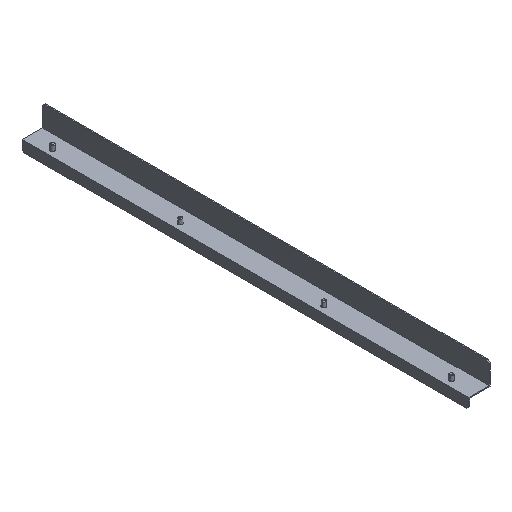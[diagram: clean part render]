
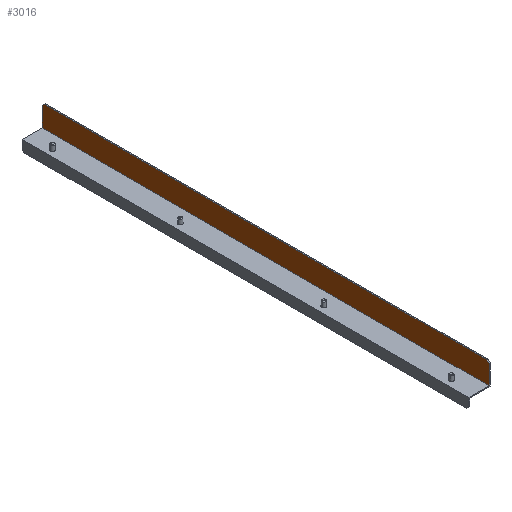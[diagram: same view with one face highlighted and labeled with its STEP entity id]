
A CAD part, isometric view. The second image highlights one B-rep face of the part: STEP entity #3016.
In plain terms, the highlighted planar face has unit normal (-1, 0, 0).
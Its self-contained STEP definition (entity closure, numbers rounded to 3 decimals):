
#5 = ORIENTED_EDGE ( 'NONE', *, *, #1099, .T. ) ;
#35 = DIRECTION ( 'NONE',  ( 0., -0.707, -0.707 ) ) ;
#140 = VERTEX_POINT ( 'NONE', #3388 ) ;
#183 = EDGE_CURVE ( 'NONE', #2462, #1618, #4175, .T. ) ;
#217 = VECTOR ( 'NONE', #3472, 1000. ) ;
#239 = EDGE_CURVE ( 'NONE', #1618, #1884, #3114, .T. ) ;
#547 = EDGE_LOOP ( 'NONE', ( #653, #5, #3084, #3689, #1617, #2910, #1237, #4220 ) ) ;
#638 = DIRECTION ( 'NONE',  ( 0., 0., -1. ) ) ;
#653 = ORIENTED_EDGE ( 'NONE', *, *, #2015, .F. ) ;
#762 = VERTEX_POINT ( 'NONE', #2582 ) ;
#777 = CARTESIAN_POINT ( 'NONE',  ( 21.5, -350., 5.5 ) ) ;
#788 = CARTESIAN_POINT ( 'NONE',  ( 21.5, -350., 35. ) ) ;
#800 = VECTOR ( 'NONE', #1550, 1000. ) ;
#1030 = LINE ( 'NONE', #3440, #1870 ) ;
#1079 = CARTESIAN_POINT ( 'NONE',  ( 21.5, -350., 0. ) ) ;
#1085 = LINE ( 'NONE', #3475, #3069 ) ;
#1099 = EDGE_CURVE ( 'NONE', #2506, #3978, #2314, .T. ) ;
#1235 = AXIS2_PLACEMENT_3D ( 'NONE', #3301, #4001, #3326 ) ;
#1237 = ORIENTED_EDGE ( 'NONE', *, *, #2793, .F. ) ;
#1430 = DIRECTION ( 'NONE',  ( 0., 0., 1. ) ) ;
#1550 = DIRECTION ( 'NONE',  ( 0., -0.707, 0.707 ) ) ;
#1558 = VECTOR ( 'NONE', #2492, 1000. ) ;
#1617 = ORIENTED_EDGE ( 'NONE', *, *, #183, .F. ) ;
#1618 = VERTEX_POINT ( 'NONE', #777 ) ;
#1755 = DIRECTION ( 'NONE',  ( 0., -1., 0. ) ) ;
#1802 = VERTEX_POINT ( 'NONE', #1859 ) ;
#1859 = CARTESIAN_POINT ( 'NONE',  ( 21.5, 347., 38. ) ) ;
#1870 = VECTOR ( 'NONE', #1755, 1000. ) ;
#1884 = VERTEX_POINT ( 'NONE', #3635 ) ;
#1892 = CARTESIAN_POINT ( 'NONE',  ( 21.5, 350., 5.5 ) ) ;
#2015 = EDGE_CURVE ( 'NONE', #2506, #762, #1085, .T. ) ;
#2262 = FACE_OUTER_BOUND ( 'NONE', #547, .T. ) ;
#2264 = LINE ( 'NONE', #4023, #4129 ) ;
#2314 = LINE ( 'NONE', #4341, #4239 ) ;
#2462 = VERTEX_POINT ( 'NONE', #2748 ) ;
#2492 = DIRECTION ( 'NONE',  ( 0., 0., -1. ) ) ;
#2506 = VERTEX_POINT ( 'NONE', #1892 ) ;
#2582 = CARTESIAN_POINT ( 'NONE',  ( 21.5, 350., 35. ) ) ;
#2583 = LINE ( 'NONE', #4333, #800 ) ;
#2644 = PLANE ( 'NONE',  #1235 ) ;
#2748 = CARTESIAN_POINT ( 'NONE',  ( 21.5, -350., 35. ) ) ;
#2793 = EDGE_CURVE ( 'NONE', #1802, #140, #1030, .T. ) ;
#2910 = ORIENTED_EDGE ( 'NONE', *, *, #3983, .F. ) ;
#3016 = ADVANCED_FACE ( 'NONE', ( #2262 ), #2644, .F. ) ;
#3048 = CARTESIAN_POINT ( 'NONE',  ( 21.5, -347., 38. ) ) ;
#3069 = VECTOR ( 'NONE', #1430, 1000. ) ;
#3084 = ORIENTED_EDGE ( 'NONE', *, *, #4353, .T. ) ;
#3114 = LINE ( 'NONE', #1079, #217 ) ;
#3301 = CARTESIAN_POINT ( 'NONE',  ( 21.5, 0., 0. ) ) ;
#3326 = DIRECTION ( 'NONE',  ( 0., 1., 0. ) ) ;
#3388 = CARTESIAN_POINT ( 'NONE',  ( 21.5, -347., 38. ) ) ;
#3440 = CARTESIAN_POINT ( 'NONE',  ( 21.5, 347., 38. ) ) ;
#3472 = DIRECTION ( 'NONE',  ( 0., 0., -1. ) ) ;
#3475 = CARTESIAN_POINT ( 'NONE',  ( 21.5, 350., 3. ) ) ;
#3619 = DIRECTION ( 'NONE',  ( 0., -1., 0. ) ) ;
#3635 = CARTESIAN_POINT ( 'NONE',  ( 21.5, -350., 4.5 ) ) ;
#3689 = ORIENTED_EDGE ( 'NONE', *, *, #239, .F. ) ;
#3921 = VECTOR ( 'NONE', #35, 1000. ) ;
#3978 = VERTEX_POINT ( 'NONE', #4111 ) ;
#3983 = EDGE_CURVE ( 'NONE', #140, #2462, #4074, .T. ) ;
#4001 = DIRECTION ( 'NONE',  ( 1., 0., 0. ) ) ;
#4023 = CARTESIAN_POINT ( 'NONE',  ( 21.5, 0., 4.5 ) ) ;
#4074 = LINE ( 'NONE', #3048, #3921 ) ;
#4111 = CARTESIAN_POINT ( 'NONE',  ( 21.5, 350., 4.5 ) ) ;
#4129 = VECTOR ( 'NONE', #3619, 1000. ) ;
#4175 = LINE ( 'NONE', #788, #1558 ) ;
#4220 = ORIENTED_EDGE ( 'NONE', *, *, #4292, .F. ) ;
#4239 = VECTOR ( 'NONE', #638, 1000. ) ;
#4292 = EDGE_CURVE ( 'NONE', #762, #1802, #2583, .T. ) ;
#4333 = CARTESIAN_POINT ( 'NONE',  ( 21.5, 350., 35. ) ) ;
#4341 = CARTESIAN_POINT ( 'NONE',  ( 21.5, 350., 5.5 ) ) ;
#4353 = EDGE_CURVE ( 'NONE', #3978, #1884, #2264, .T. ) ;
